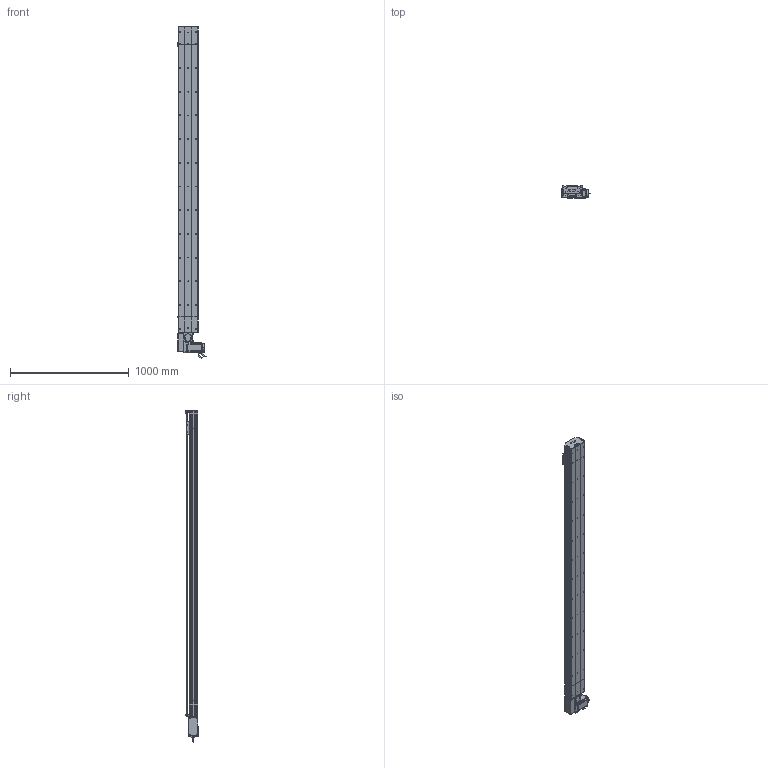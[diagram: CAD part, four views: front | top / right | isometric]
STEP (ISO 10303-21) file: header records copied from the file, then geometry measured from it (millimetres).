
FILE_DESCRIPTION (( 'STEP AP214' ), '1' );
FILE_NAME ('D17 TBN RH S2300.STEP', '2010-06-30T11:44:10', ( 'Christophe Gaillard' ), ( 'SGA' ), 'SwSTEP 2.0', 'SolidWorks 2010', '' );
FILE_SCHEMA (( 'AUTOMOTIVE_DESIGN' ));
Length unit declared in the file: millimetre
Products named in the file (40): guide D17; avant 90BLDC125A-640; vis M5 L25_Default; Couroie+ rail D17 Course 2300 ; Vis M5 L16-2_Default; cache arbre D17_Default; Renvoi RH_Default; vis M5 L5_Default; corp tail D17B+100_Default; Moteur motionking 90BLDC125A-640; plaque de  bout tail D17B_Default; tete d''axe poulie D17B; Rail D17B; poulie tail_Default; Couroie tail D17B_Default; couvercle D17B_Default; vis M5 L8 90°_Default; vis M5 L12_Default; codeur 90BLDC125-640; cache D17_Default; corp D17B 2300_Default; D17 TBN RH S2300; poulie head_Default; Arbre+rail head D17B; course 2300 D17B_Default; couvercle D17B head_Default; Conecteur_Default; couvercle D17B course L2300_Default; vis M5 L70_Default; plaque de  bout head D17B RH_Default; Plaque racord D17_Default; Conecteur2_Default; corpl head D17 _Default; vis M5 L16_Default; Head RH D17B_Default; couroie head D17_Default; Tail D17B+100_Default; chariot D17 TBN; Chariot D17 TBN; corps 90BLDC125A-640
Assembly tree (66 placements, depth 4):
  D17 TBN RH S2300
    Tail D17B+100_Default
      plaque de  bout tail D17B_Default
      couvercle D17B_Default
      vis M5 L25_Default  x2
      tete d''axe poulie D17B
      vis M5 L8 90°_Default  x2
      poulie tail_Default
      vis M5 L12_Default  x4
      corp tail D17B+100_Default
      Rail D17B
      Couroie tail D17B_Default
    course 2300 D17B_Default
      corp D17B 2300_Default
      Couroie+ rail D17 Course 2300 
      couvercle D17B course L2300_Default
    chariot D17 TBN
      Chariot D17 TBN
      guide D17  x2
    Head RH D17B_Default
      vis M5 L12_Default  x8
      vis M5 L5_Default  x4
      vis M5 L25_Default  x2
      poulie head_Default
      Moteur motionking 90BLDC125A-640
        Conecteur_Default
        corps 90BLDC125A-640
        codeur 90BLDC125-640
        avant 90BLDC125A-640
        Conecteur2_Default
      vis M5 L70_Default  x4
      Plaque racord D17_Default
      cache D17_Default  x2
      couroie head D17_Default
      corpl head D17 _Default
      plaque de  bout head D17B RH_Default
      vis M5 L16_Default  x2
      Vis M5 L16-2_Default  x4
      Arbre+rail head D17B
      Renvoi RH_Default
      couvercle D17B head_Default
      cache arbre D17_Default
Bounding box: 245.2 x 105.65 x 2800.95 mm (x, y, z)
Volume: 15696043 mm3; surface area: 4548528.3 mm2
Topology: 89 solids, 89 shells, 2619 faces, 6711 edges, 4326 vertices
Faces by surface type: plane 1537, cylinder 785, bspline 136, cone 80, torus 77, sphere 4
Entity records: 85101 total; most frequent: CARTESIAN_POINT 25285, ORIENTED_EDGE 10594, DIRECTION 9998, EDGE_CURVE 5297, LINE 3492, VECTOR 3492, VERTEX_POINT 3470, AXIS2_PLACEMENT_3D 3253
